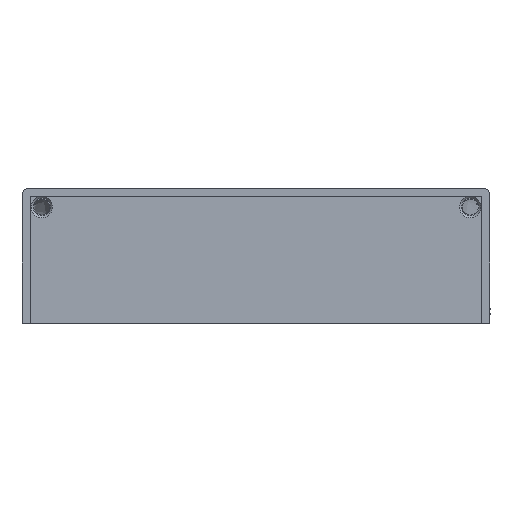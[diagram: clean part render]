
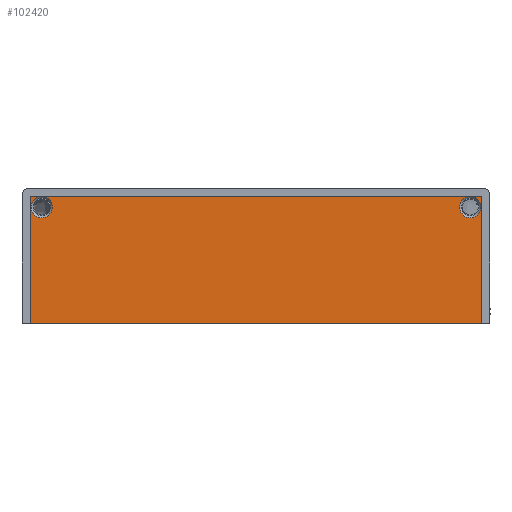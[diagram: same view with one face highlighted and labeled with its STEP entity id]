
A CAD part, left-side view. The second image highlights one B-rep face of the part: STEP entity #102420.
In plain terms, the highlighted planar face has unit normal (-1, 0, 0).
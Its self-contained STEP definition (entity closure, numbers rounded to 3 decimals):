
#1619 = CARTESIAN_POINT ( 'NONE',  ( -33.75, -56.85, -33.4 ) ) ;
#3737 = ORIENTED_EDGE ( 'NONE', *, *, #113486, .F. ) ;
#3803 = ORIENTED_EDGE ( 'NONE', *, *, #181829, .F. ) ;
#8363 = DIRECTION ( 'NONE',  ( -1., 0., 0. ) ) ;
#9513 = EDGE_CURVE ( 'NONE', #25810, #33099, #128996, .T. ) ;
#9657 = DIRECTION ( 'NONE',  ( 0., -1., 0. ) ) ;
#11589 = VERTEX_POINT ( 'NONE', #109986 ) ;
#13379 = CIRCLE ( 'NONE', #99114, 2.7 ) ;
#15902 = AXIS2_PLACEMENT_3D ( 'NONE', #124583, #33155, #139926 ) ;
#19128 = CARTESIAN_POINT ( 'NONE',  ( -33.75, -54., -4.17 ) ) ;
#21103 = VERTEX_POINT ( 'NONE', #48570 ) ;
#23454 = DIRECTION ( 'NONE',  ( -1., 0., 0. ) ) ;
#24995 = AXIS2_PLACEMENT_3D ( 'NONE', #114818, #23454, #130224 ) ;
#25810 = VERTEX_POINT ( 'NONE', #173914 ) ;
#29226 = CARTESIAN_POINT ( 'NONE',  ( -33.75, -54.828, -1.6 ) ) ;
#29336 = VERTEX_POINT ( 'NONE', #195786 ) ;
#29595 = VECTOR ( 'NONE', #165695, 1000. ) ;
#32816 = CARTESIAN_POINT ( 'NONE',  ( -33.75, -54., -4.17 ) ) ;
#33099 = VERTEX_POINT ( 'NONE', #133426 ) ;
#33155 = DIRECTION ( 'NONE',  ( -1., 0., 0. ) ) ;
#34444 = DIRECTION ( 'NONE',  ( 0., -1., 0. ) ) ;
#34736 = AXIS2_PLACEMENT_3D ( 'NONE', #19128, #125939, #34444 ) ;
#42830 = CARTESIAN_POINT ( 'NONE',  ( -33.75, 54., -4.17 ) ) ;
#44129 = DIRECTION ( 'NONE',  ( 0., -1., 0. ) ) ;
#47113 = VERTEX_POINT ( 'NONE', #1619 ) ;
#48128 = DIRECTION ( 'NONE',  ( 0., -1., 0. ) ) ;
#48570 = CARTESIAN_POINT ( 'NONE',  ( -33.75, -51.3, -4.17 ) ) ;
#50259 = VECTOR ( 'NONE', #86073, 1000. ) ;
#50759 = ORIENTED_EDGE ( 'NONE', *, *, #76311, .T. ) ;
#57143 = AXIS2_PLACEMENT_3D ( 'NONE', #192441, #101052, #9657 ) ;
#58216 = DIRECTION ( 'NONE',  ( 0., -1., 0. ) ) ;
#61301 = CARTESIAN_POINT ( 'NONE',  ( -33.75, 51.3, -4.17 ) ) ;
#61698 = ORIENTED_EDGE ( 'NONE', *, *, #198007, .F. ) ;
#61731 = ORIENTED_EDGE ( 'NONE', *, *, #145603, .F. ) ;
#63605 = AXIS2_PLACEMENT_3D ( 'NONE', #32816, #139570, #48128 ) ;
#64880 = ORIENTED_EDGE ( 'NONE', *, *, #169884, .F. ) ;
#65145 = DIRECTION ( 'NONE',  ( 0., -1., 0. ) ) ;
#68990 = ORIENTED_EDGE ( 'NONE', *, *, #9513, .F. ) ;
#71638 = VECTOR ( 'NONE', #129308, 1000. ) ;
#75855 = EDGE_CURVE ( 'NONE', #21103, #192737, #110928, .T. ) ;
#76311 = EDGE_CURVE ( 'NONE', #47113, #160273, #191862, .T. ) ;
#82041 = ORIENTED_EDGE ( 'NONE', *, *, #75855, .F. ) ;
#83783 = CARTESIAN_POINT ( 'NONE',  ( -33.75, -56.85, -1.6 ) ) ;
#85943 = LINE ( 'NONE', #177561, #50259 ) ;
#86073 = DIRECTION ( 'NONE',  ( 0., 0., 1. ) ) ;
#88363 = EDGE_CURVE ( 'NONE', #179624, #160273, #105379, .T. ) ;
#92793 = VECTOR ( 'NONE', #171116, 1000. ) ;
#92807 = ORIENTED_EDGE ( 'NONE', *, *, #167900, .F. ) ;
#95785 = CARTESIAN_POINT ( 'NONE',  ( -33.75, -56.85, -1.6 ) ) ;
#99114 = AXIS2_PLACEMENT_3D ( 'NONE', #99735, #8363, #115130 ) ;
#99735 = CARTESIAN_POINT ( 'NONE',  ( -33.75, 54., -4.17 ) ) ;
#100573 = VECTOR ( 'NONE', #44129, 1000. ) ;
#101052 = DIRECTION ( 'NONE',  ( 1., 0., 0. ) ) ;
#102420 = ADVANCED_FACE ( 'NONE', ( #130953 ), #146467, .F. ) ;
#104237 = CARTESIAN_POINT ( 'NONE',  ( -33.75, -56.85, -1.6 ) ) ;
#104670 = CIRCLE ( 'NONE', #24995, 2.7 ) ;
#105379 = LINE ( 'NONE', #120275, #100573 ) ;
#105620 = CARTESIAN_POINT ( 'NONE',  ( -33.75, -56.85, -33.5 ) ) ;
#109986 = CARTESIAN_POINT ( 'NONE',  ( -33.75, 56.7, -4.17 ) ) ;
#110928 = CIRCLE ( 'NONE', #34736, 2.7 ) ;
#112071 = EDGE_CURVE ( 'NONE', #189494, #185306, #85943, .T. ) ;
#113486 = EDGE_CURVE ( 'NONE', #192737, #179624, #123849, .T. ) ;
#114818 = CARTESIAN_POINT ( 'NONE',  ( -33.75, 54., -4.17 ) ) ;
#115130 = DIRECTION ( 'NONE',  ( 0., -1., 0. ) ) ;
#120275 = CARTESIAN_POINT ( 'NONE',  ( -33.75, -56.85, -1.6 ) ) ;
#123849 = CIRCLE ( 'NONE', #63605, 2.7 ) ;
#124583 = CARTESIAN_POINT ( 'NONE',  ( -33.75, -54., -4.17 ) ) ;
#125939 = DIRECTION ( 'NONE',  ( -1., 0., 0. ) ) ;
#127187 = LINE ( 'NONE', #155779, #92793 ) ;
#127228 = CARTESIAN_POINT ( 'NONE',  ( -33.75, 56.85, -33.4 ) ) ;
#128996 = LINE ( 'NONE', #83783, #71638 ) ;
#129308 = DIRECTION ( 'NONE',  ( 0., -1., 0. ) ) ;
#130224 = DIRECTION ( 'NONE',  ( 0., -1., 0. ) ) ;
#130953 = FACE_OUTER_BOUND ( 'NONE', #150701, .T. ) ;
#133426 = CARTESIAN_POINT ( 'NONE',  ( -33.75, -53.172, -1.6 ) ) ;
#134448 = ORIENTED_EDGE ( 'NONE', *, *, #141725, .F. ) ;
#139135 = CARTESIAN_POINT ( 'NONE',  ( -33.75, 56.85, -1.6 ) ) ;
#139570 = DIRECTION ( 'NONE',  ( -1., 0., 0. ) ) ;
#139926 = DIRECTION ( 'NONE',  ( 0., -1., 0. ) ) ;
#140073 = LINE ( 'NONE', #95785, #180590 ) ;
#141222 = CIRCLE ( 'NONE', #15902, 2.7 ) ;
#141725 = EDGE_CURVE ( 'NONE', #162034, #25810, #13379, .T. ) ;
#143009 = AXIS2_PLACEMENT_3D ( 'NONE', #42830, #149619, #58216 ) ;
#145603 = EDGE_CURVE ( 'NONE', #47113, #189494, #127187, .T. ) ;
#146467 = PLANE ( 'NONE',  #57143 ) ;
#149619 = DIRECTION ( 'NONE',  ( -1., 0., 0. ) ) ;
#150701 = EDGE_LOOP ( 'NONE', ( #61698, #92807, #186353, #61731, #50759, #159394, #3737, #82041, #64880, #68990, #134448, #3803 ) ) ;
#155779 = CARTESIAN_POINT ( 'NONE',  ( -33.75, -56.85, -33.4 ) ) ;
#157384 = CARTESIAN_POINT ( 'NONE',  ( -33.75, -56.7, -4.17 ) ) ;
#159394 = ORIENTED_EDGE ( 'NONE', *, *, #88363, .F. ) ;
#160273 = VERTEX_POINT ( 'NONE', #104237 ) ;
#162034 = VERTEX_POINT ( 'NONE', #61301 ) ;
#165695 = DIRECTION ( 'NONE',  ( 0., 0., 1. ) ) ;
#167900 = EDGE_CURVE ( 'NONE', #185306, #29336, #140073, .T. ) ;
#169884 = EDGE_CURVE ( 'NONE', #33099, #21103, #141222, .T. ) ;
#171116 = DIRECTION ( 'NONE',  ( 0., 1., 0. ) ) ;
#173914 = CARTESIAN_POINT ( 'NONE',  ( -33.75, 53.172, -1.6 ) ) ;
#177561 = CARTESIAN_POINT ( 'NONE',  ( -33.75, 56.85, -33.5 ) ) ;
#179624 = VERTEX_POINT ( 'NONE', #29226 ) ;
#180590 = VECTOR ( 'NONE', #65145, 1000. ) ;
#181829 = EDGE_CURVE ( 'NONE', #11589, #162034, #104670, .T. ) ;
#185306 = VERTEX_POINT ( 'NONE', #139135 ) ;
#186353 = ORIENTED_EDGE ( 'NONE', *, *, #112071, .F. ) ;
#189494 = VERTEX_POINT ( 'NONE', #127228 ) ;
#189611 = CIRCLE ( 'NONE', #143009, 2.7 ) ;
#191862 = LINE ( 'NONE', #105620, #29595 ) ;
#192441 = CARTESIAN_POINT ( 'NONE',  ( -33.75, -56.85, -33.5 ) ) ;
#192737 = VERTEX_POINT ( 'NONE', #157384 ) ;
#195786 = CARTESIAN_POINT ( 'NONE',  ( -33.75, 54.828, -1.6 ) ) ;
#198007 = EDGE_CURVE ( 'NONE', #29336, #11589, #189611, .T. ) ;
